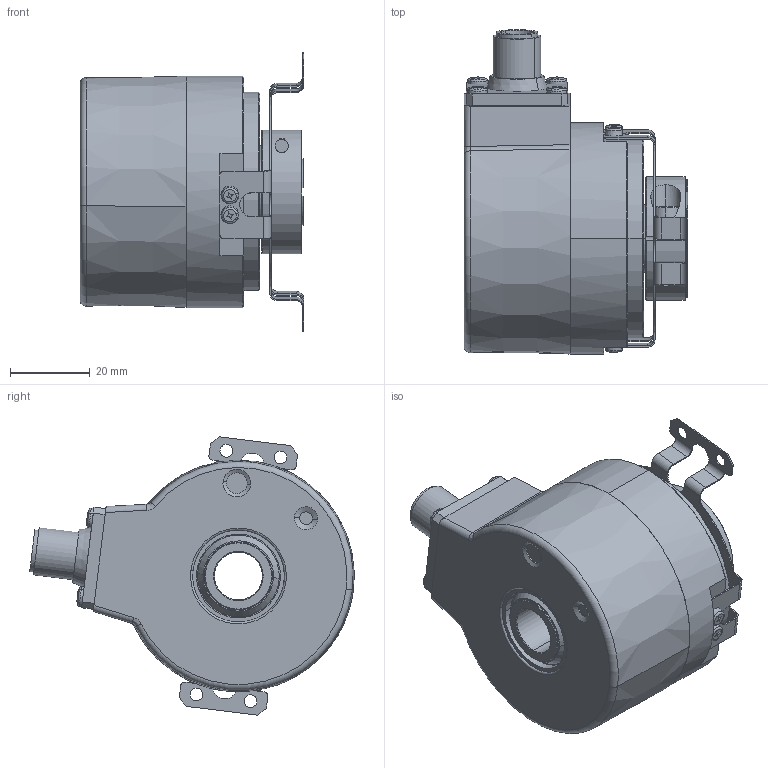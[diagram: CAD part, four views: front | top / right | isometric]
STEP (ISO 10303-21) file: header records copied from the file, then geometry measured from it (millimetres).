
FILE_DESCRIPTION (( 'STEP AP203' ), '1' );
FILE_NAME ('8.5834SIL.B4X6.XXXX.STEP', '2013-04-05T07:57:25', ( 'LauferA' ), ( 'Microsoft' ), 'SwSTEP 2.0', 'SolidWorks 2012', '' );
FILE_SCHEMA (( 'CONFIG_CONTROL_DESIGN' ));
Length unit declared in the file: millimetre
Products named in the file (1): 8.5834SIL.B4X6.XXXX
Bounding box: 56 x 81.25 x 69.69 mm (x, y, z)
Volume: 74661.3 mm3; surface area: 47844.2 mm2
Topology: 17 solids, 17 shells, 1038 faces, 2541 edges, 1549 vertices
Faces by surface type: plane 370, cylinder 350, cone 182, torus 76, bspline 36, sphere 24
Entity records: 31922 total; most frequent: CARTESIAN_POINT 7453, DIRECTION 5362, ORIENTED_EDGE 4934, EDGE_CURVE 2467, AXIS2_PLACEMENT_3D 2111, VERTEX_POINT 1533, EDGE_LOOP 1158, VECTOR 1140
